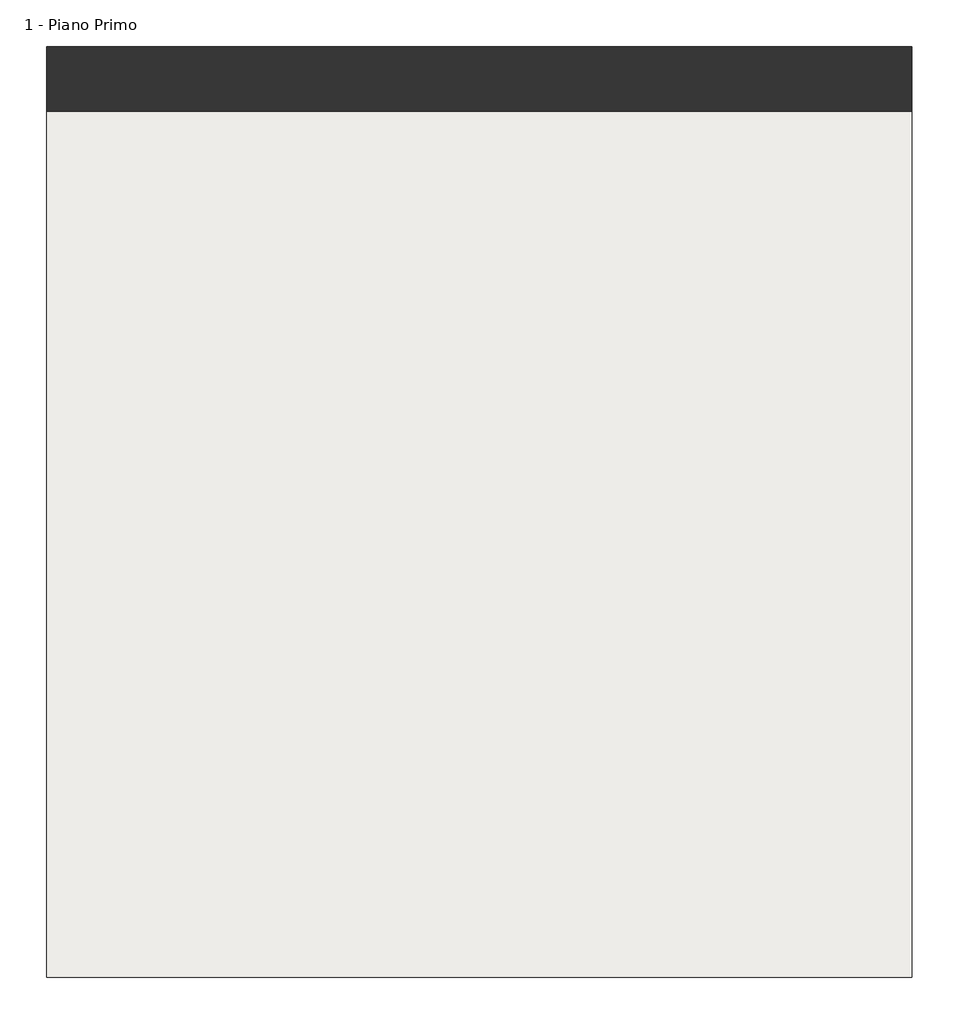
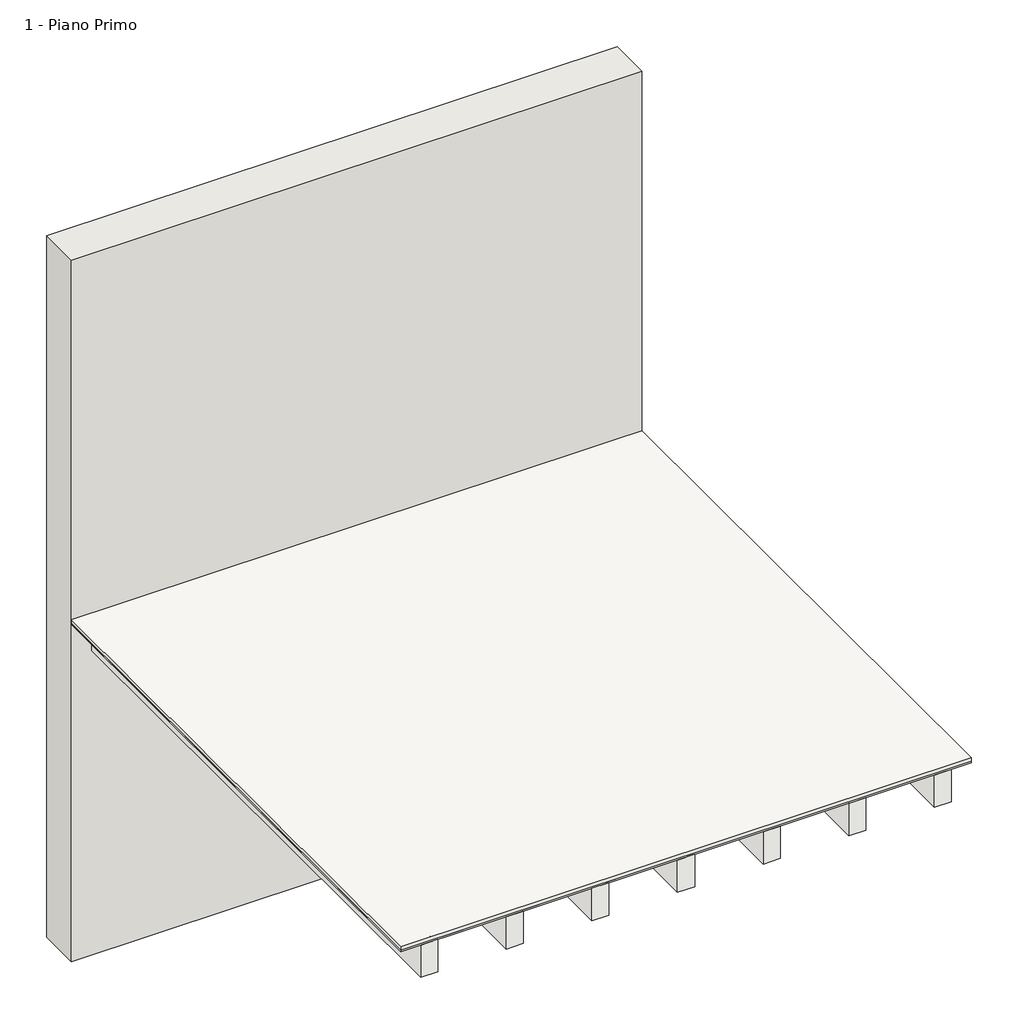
# One storey: 9 slabs, 1 wall.
"""IFC4 building model written with IfcOpenShell, lengths in millimetres."""

from ifc_helpers import new_model, si_unit, point, frame, frame_2d, origin, place, context, project, spatial, polyline, circle_curve, trimmed, segment, composite_curve, outline, extrude, element, save

model = new_model("IFC4")

# Units and contexts
model_context = context("Model", 3, world=origin())
ifc_project = project(units=[si_unit("LENGTHUNIT", "METRE", prefix="MILLI")], contexts=[model_context])

# Site, building, storey
site = spatial("IfcSite", under=ifc_project)
building = spatial("IfcBuilding", under=site)
storey = spatial("IfcBuildingStorey", under=building, Name="1 - Piano Primo", Elevation=2700.0)

# Slabs
placement = place(None, origin())
element("IfcSlab", 1, ObjectType="Perlina in legno", at=placement, inside=storey, context=model_context, shape_type="SweptSolid", body=[
    extrude(outline(polyline([(1851.8069864, 5028.648913), (-2148.1930136, 5028.648913), (-2148.1930136, 9028.648913), (1851.8069864, 9028.648913), (1851.8069864, 5028.648913)]), holes=[composite_curve([segment(trimmed(circle_curve(frame_2d((-1948.1930136, 5078.648913)), 30.0), [point((-1978.1930136, 5078.648913))], [point((-1918.1930136, 5078.648913))], True, "CARTESIAN"), True, "CONTINUOUS"), segment(trimmed(circle_curve(frame_2d((-1948.1930136, 5078.648913)), 30.0), [point((-1918.1930136, 5078.648913))], [point((-1978.1930136, 5078.648913))], True, "CARTESIAN"), True, "CONTINUOUS")], self_intersect=False)]), frame((0.0, 0.0, 2700.0), z_axis=(0.0, 0.0, 1.0), x_axis=(1.0, 0.0, 0.0)), (0.0, 0.0, 1.0), 10.0),
])
element("IfcSlab", 2, ObjectType="FIBRO HFR VOLTECO", at=placement, inside=storey, context=model_context, shape_type="SweptSolid", body=[
    extrude(outline(polyline([(-2148.1930136, 9028.648913), (1851.8069864, 9028.648913), (1851.8069864, 5028.648913), (-2148.1930136, 5028.648913), (-2148.1930136, 9028.648913)])), frame((0.0, 0.0, 2710.0), z_axis=(0.0, 0.0, 1.0), x_axis=(1.0, 0.0, 0.0)), (0.0, 0.0, 1.0), 25.0),
])
element("IfcSlab", 3, ObjectType="Solaio in legno", at=placement, inside=storey, context=model_context, shape_type="SweptSolid", body=[
    extrude(outline(polyline([(-1888.1930136, 5028.648913), (-2008.1930136, 5028.648913), (-2008.1930136, 9028.648913), (-1888.1930136, 9028.648913), (-1888.1930136, 5028.648913)])), frame((0.0, 0.0, 2460.0), z_axis=(0.0, 0.0, 1.0), x_axis=(1.0, 0.0, 0.0)), (0.0, 0.0, 1.0), 240.0),
])
element("IfcSlab", 4, ObjectType="Solaio in legno", at=placement, inside=storey, context=model_context, shape_type="SweptSolid", body=[
    extrude(outline(polyline([(-1288.1930136, 5028.648913), (-1408.1930136, 5028.648913), (-1408.1930136, 9028.648913), (-1288.1930136, 9028.648913), (-1288.1930136, 5028.648913)])), frame((0.0, 0.0, 2460.0), z_axis=(0.0, 0.0, 1.0), x_axis=(1.0, 0.0, 0.0)), (0.0, 0.0, 1.0), 240.0),
])
element("IfcSlab", 5, ObjectType="Solaio in legno", at=placement, inside=storey, context=model_context, shape_type="SweptSolid", body=[
    extrude(outline(polyline([(-688.1930136, 5028.648913), (-808.1930136, 5028.648913), (-808.1930136, 9028.648913), (-688.1930136, 9028.648913), (-688.1930136, 5028.648913)])), frame((0.0, 0.0, 2460.0), z_axis=(0.0, 0.0, 1.0), x_axis=(1.0, 0.0, 0.0)), (0.0, 0.0, 1.0), 240.0),
])
element("IfcSlab", 6, ObjectType="Solaio in legno", at=placement, inside=storey, context=model_context, shape_type="SweptSolid", body=[
    extrude(outline(polyline([(-88.1930136, 5028.648913), (-208.1930136, 5028.648913), (-208.1930136, 9028.648913), (-88.1930136, 9028.648913), (-88.1930136, 5028.648913)])), frame((0.0, 0.0, 2460.0), z_axis=(0.0, 0.0, 1.0), x_axis=(1.0, 0.0, 0.0)), (0.0, 0.0, 1.0), 240.0),
])
element("IfcSlab", 7, ObjectType="Solaio in legno", at=placement, inside=storey, context=model_context, shape_type="SweptSolid", body=[
    extrude(outline(polyline([(511.8069864, 5028.648913), (391.8069864, 5028.648913), (391.8069864, 9028.648913), (511.8069864, 9028.648913), (511.8069864, 5028.648913)])), frame((0.0, 0.0, 2460.0), z_axis=(0.0, 0.0, 1.0), x_axis=(1.0, 0.0, 0.0)), (0.0, 0.0, 1.0), 240.0),
])
element("IfcSlab", 8, ObjectType="Solaio in legno", at=placement, inside=storey, context=model_context, shape_type="SweptSolid", body=[
    extrude(outline(polyline([(1111.8069864, 5028.648913), (991.8069864, 5028.648913), (991.8069864, 9028.648913), (1111.8069864, 9028.648913), (1111.8069864, 5028.648913)])), frame((0.0, 0.0, 2460.0), z_axis=(0.0, 0.0, 1.0), x_axis=(1.0, 0.0, 0.0)), (0.0, 0.0, 1.0), 240.0),
])
element("IfcSlab", 9, ObjectType="Solaio in legno", at=placement, inside=storey, context=model_context, shape_type="SweptSolid", body=[
    extrude(outline(polyline([(1711.8069864, 5028.648913), (1591.8069864, 5028.648913), (1591.8069864, 9028.648913), (1711.8069864, 9028.648913), (1711.8069864, 5028.648913)])), frame((0.0, 0.0, 2460.0), z_axis=(0.0, 0.0, 1.0), x_axis=(1.0, 0.0, 0.0)), (0.0, 0.0, 1.0), 240.0),
])

# Wall
element("IfcWall", 10, ObjectType="Generico - 30 cm", at=placement, inside=storey, context=model_context, shape_type="SweptSolid", body=[
    extrude(outline(polyline([(1851.8069864, 9028.648913), (-2148.1930136, 9028.648913), (-2148.1930136, 9328.648913), (1851.8069864, 9328.648913), (1851.8069864, 9028.648913)])), frame((0.0, 0.0, 200.0), z_axis=(0.0, 0.0, 1.0), x_axis=(1.0, 0.0, 0.0)), (0.0, 0.0, 1.0), 5200.0),
])

save(model, "model.ifc")
